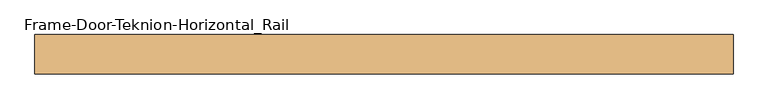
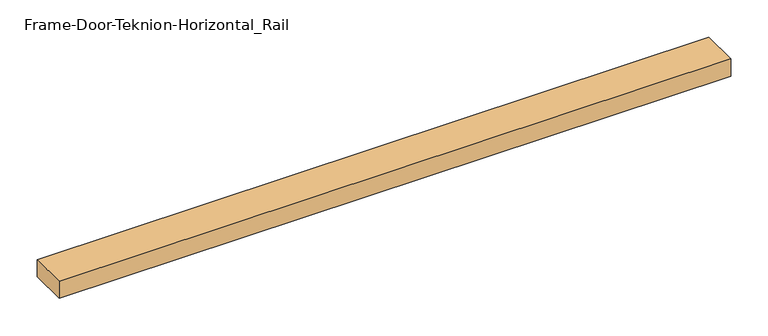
"""IFC4 building model written with IfcOpenShell, lengths in millimetres: door geometry, Frame-Door-Teknion-Horizontal_Rail : FPKK."""

from ifc_helpers import new_model, si_unit, frame, origin, place, context, project, spatial, polyline, outline, extrude, source, transform, mapped, element, save


def frame_door_teknion_horizontal_rail_67457fb7(model_context):
    return source(origin(), model_context, "Body", "SweptSolid", [
        extrude(outline(polyline([(-519.4101562, 29.2199219), (519.4101563, 29.2199219), (519.4101563, -29.2199219), (-519.4101562, -29.2199219), (-519.4101562, 29.2199219)])), frame((0.0, 0.0, -13.9898438), z_axis=(0.0, 0.0, 1.0), x_axis=(1.0, 0.0, 0.0)), (0.0, 0.0, 1.0), 27.9796875),
    ])


if __name__ == "__main__":
    model = new_model("IFC4")
    model_context = context("Model", 3, world=origin())
    ifc_project = project(units=[si_unit("LENGTHUNIT", "METRE", prefix="MILLI")], contexts=[model_context])
    site = spatial("IfcSite", under=ifc_project)
    building = spatial("IfcBuilding", under=site)
    placement = place(None, origin())
    frame_door_teknion_horizontal_rail_shape = frame_door_teknion_horizontal_rail_67457fb7(model_context)
    element("IfcDoor", 1, ObjectType="Frame-Door-Teknion-Horizontal_Rail : FPKK", at=placement, inside=building, context=model_context, shape_type="MappedRepresentation", body=[
        mapped(frame_door_teknion_horizontal_rail_shape, transform((0.0, 0.0, 0.0), x_axis=(1.0, 0.0, 0.0), y_axis=(0.0, 1.0, 0.0), z_axis=(0.0, 0.0, 1.0))),
    ])
    save(model, "model.ifc")
